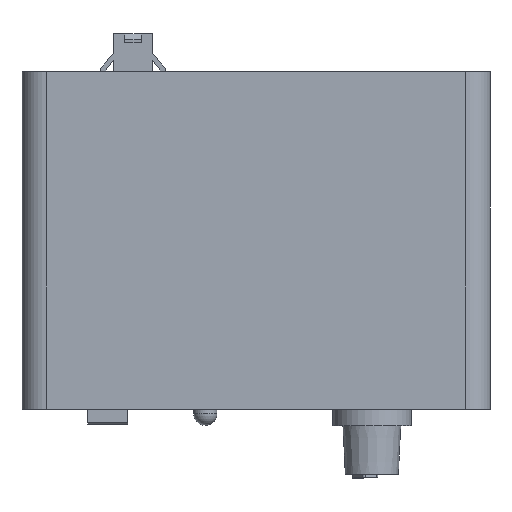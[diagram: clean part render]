
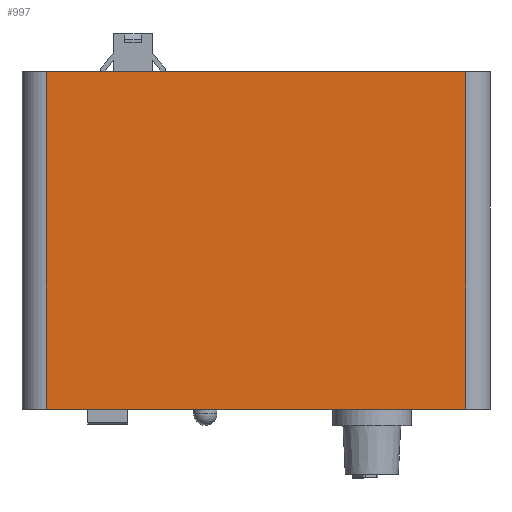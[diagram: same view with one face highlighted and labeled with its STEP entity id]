
A CAD part, top view. The second image highlights one B-rep face of the part: STEP entity #997.
In plain terms, the highlighted planar face has unit normal (0, 0, 1).
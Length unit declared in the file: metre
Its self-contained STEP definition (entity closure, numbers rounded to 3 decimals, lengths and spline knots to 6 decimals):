
#997=ADVANCED_FACE('27:14401',(#2243),#2244,.T.);
#2243=FACE_OUTER_BOUND('',#3749,.T.);
#2244=PLANE('',#3750);
#3749=EDGE_LOOP('',(#6735,#6736,#6737,#6738));
#3750=AXIS2_PLACEMENT_3D('',#6739,#6740,#6741);
#6735=ORIENTED_EDGE('',*,*,#9698,.T.);
#6736=ORIENTED_EDGE('',*,*,#9704,.T.);
#6737=ORIENTED_EDGE('',*,*,#9682,.T.);
#6738=ORIENTED_EDGE('',*,*,#9705,.T.);
#6739=CARTESIAN_POINT('',(0.,0.0,0.046003));
#6740=DIRECTION('',(0.,0.0,1.0));
#6741=DIRECTION('',(-1.0,0.0,0.));
#9682=EDGE_CURVE('27:16150',#11813,#11811,#11814,.T.);
#9698=EDGE_CURVE('27:16153',#11841,#11839,#11842,.T.);
#9704=EDGE_CURVE('27:16189',#11839,#11813,#11848,.T.);
#9705=EDGE_CURVE('27:16186',#11811,#11841,#11849,.T.);
#11811=VERTEX_POINT('',#14933);
#11813=VERTEX_POINT('',#14935);
#11814=LINE('',#14936,#14937);
#11839=VERTEX_POINT('',#14971);
#11841=VERTEX_POINT('',#14973);
#11842=LINE('',#14974,#14975);
#11848=LINE('',#14983,#14984);
#11849=LINE('',#14985,#14986);
#14933=CARTESIAN_POINT('',(0.0435,-0.035,0.046003));
#14935=CARTESIAN_POINT('',(-0.0435,-0.035,0.046003));
#14936=CARTESIAN_POINT('',(-0.0485,-0.035,0.046003));
#14937=VECTOR('',#17419,1.0);
#14971=CARTESIAN_POINT('',(-0.0435,0.035,0.046003));
#14973=CARTESIAN_POINT('',(0.0435,0.035,0.046003));
#14974=CARTESIAN_POINT('',(0.0485,0.035,0.046003));
#14975=VECTOR('',#17441,1.0);
#14983=CARTESIAN_POINT('',(-0.0435,-0.035,0.046003));
#14984=VECTOR('',#17447,1.0);
#14985=CARTESIAN_POINT('',(0.0435,0.035,0.046003));
#14986=VECTOR('',#17448,1.0);
#17419=DIRECTION('',(1.0,0.0,0.));
#17441=DIRECTION('',(-1.0,0.0,0.));
#17447=DIRECTION('',(0.,-1.0,0.));
#17448=DIRECTION('',(0.0,1.0,0.0));
